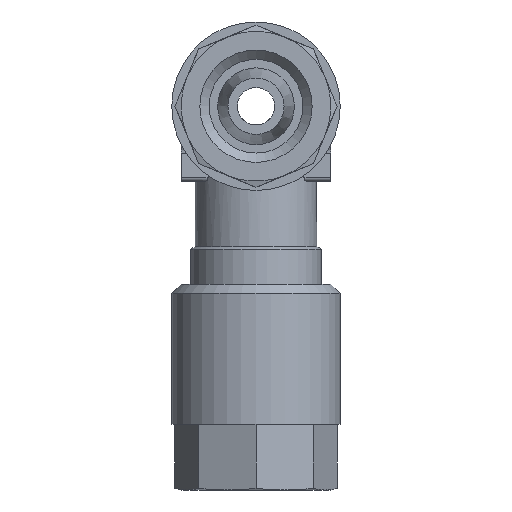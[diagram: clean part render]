
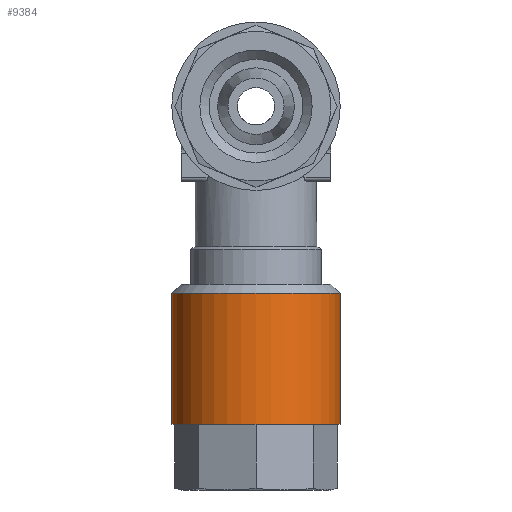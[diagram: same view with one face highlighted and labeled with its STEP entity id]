
A CAD part, left-side view. The second image highlights one B-rep face of the part: STEP entity #9384.
In plain terms, the highlighted cylindrical face has radius 4.5 mm (diameter 9 mm), a full revolution.
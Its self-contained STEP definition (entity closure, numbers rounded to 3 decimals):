
#3223=CYLINDRICAL_SURFACE('',#9099,4.5);
#3447=ORIENTED_EDGE('',*,*,#4216,.F.);
#3448=ORIENTED_EDGE('',*,*,#4217,.T.);
#3850=CIRCLE('',#9098,4.5);
#3851=CIRCLE('',#9100,4.5);
#3985=VERTEX_POINT('',#5741);
#3986=VERTEX_POINT('',#5744);
#4216=EDGE_CURVE('',#3985,#3985,#3850,.T.);
#4217=EDGE_CURVE('',#3986,#3986,#3851,.T.);
#4468=EDGE_LOOP('',(#3447));
#4469=EDGE_LOOP('',(#3448));
#4674=FACE_BOUND('',#4468,.T.);
#4675=FACE_BOUND('',#4469,.T.);
#5074=DIRECTION('',(0.,1.,0.));
#5075=DIRECTION('',(0.,0.,-4.5));
#5076=DIRECTION('',(0.,1.,0.));
#5077=DIRECTION('',(1.,0.,0.));
#5078=DIRECTION('',(0.,1.,0.));
#5079=DIRECTION('',(0.,0.,4.5));
#5741=CARTESIAN_POINT('',(26.989,22.095,-4.5));
#5742=CARTESIAN_POINT('',(26.989,22.095,0.));
#5743=CARTESIAN_POINT('',(26.989,15.095,0.));
#5744=CARTESIAN_POINT('',(26.989,15.095,4.5));
#5745=CARTESIAN_POINT('',(26.989,15.095,0.));
#9098=AXIS2_PLACEMENT_3D('',#5742,#5074,#5075);
#9099=AXIS2_PLACEMENT_3D('',#5743,#5076,#5077);
#9100=AXIS2_PLACEMENT_3D('',#5745,#5078,#5079);
#9384=ADVANCED_FACE('',(#4674,#4675),#3223,.T.);
